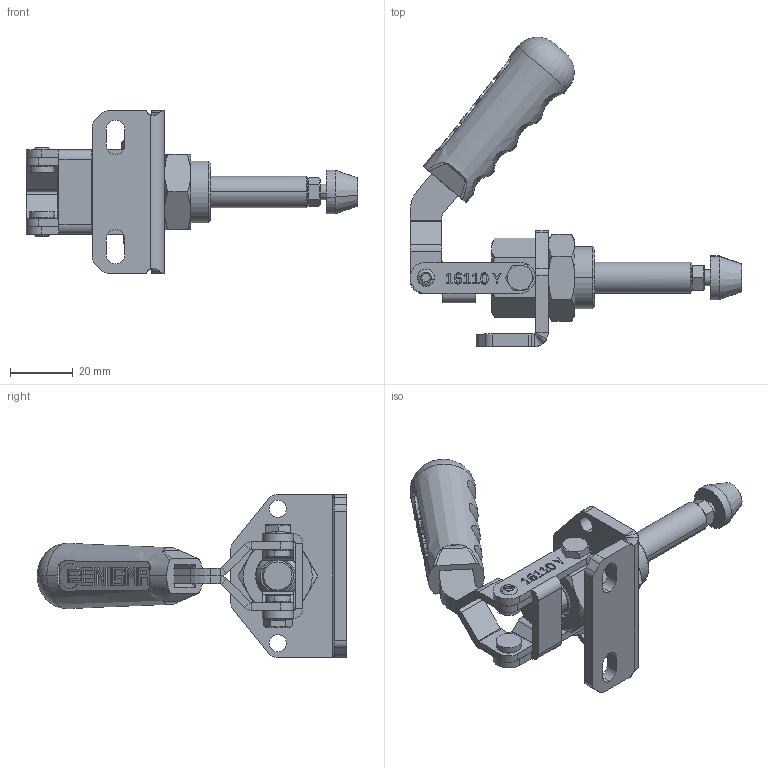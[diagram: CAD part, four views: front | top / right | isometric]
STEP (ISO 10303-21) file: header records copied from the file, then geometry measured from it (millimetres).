
FILE_DESCRIPTION (( 'STEP AP203' ), '1' );
FILE_NAME ('16110_Y.STEP', '2022-11-28T06:01:26', ( '' ), ( '' ), 'SwSTEP 2.0', 'SolidWorks 2023', '' );
FILE_SCHEMA (( 'CONFIG_CONTROL_DESIGN' ));
Length unit declared in the file: millimetre
Products named in the file (15): 1607_Mil_Varsayılan; 16110_Y; C55_T(YENİ_TUTAMAK)_Varsayılan; 1602_Mafsal_Varsayılan; M5 Somun_Varsayılan; 1602_TozKeçeliAltıgenGovde_Varsayılan; M4x5x10_Varsayılan; 1602_S4_Flans_Varsayılan; M5 Baskı_Varsayılan; Pim_5x20_Varsayılan; 1602_Hareket Kolu_Varsayılan; M20x1_5x8 Somun_Varsayılan; KASTAS-K52-10X16_2X4_5-6_Varsayılan; 1601_Pim_4x7_5_Varsayılan; Aynalama1602_Hareket Kolu_Varsayılan
Assembly tree (17 placements, depth 2):
  16110_Y
    1602_TozKeçeliAltıgenGovde_Varsayılan
    KASTAS-K52-10X16_2X4_5-6_Varsayılan  x2
    1607_Mil_Varsayılan
    1602_Hareket Kolu_Varsayılan
    1602_Mafsal_Varsayılan
    Aynalama1602_Hareket Kolu_Varsayılan
    Pim_5x20_Varsayılan
    1602_S4_Flans_Varsayılan
    M20x1_5x8 Somun_Varsayılan
    M5 Baskı_Varsayılan
    M5 Somun_Varsayılan
    M4x5x10_Varsayılan  x2
    1601_Pim_4x7_5_Varsayılan  x2
    C55_T(YENİ_TUTAMAK)_Varsayılan
Bounding box: 105.9 x 98.87 x 52 mm (x, y, z)
Volume: 48449.7 mm3; surface area: 33331.7 mm2
Topology: 17 solids, 17 shells, 928 faces, 2292 edges, 1441 vertices
Faces by surface type: plane 465, cylinder 202, bspline 129, cone 104, torus 28
Entity records: 35099 total; most frequent: CARTESIAN_POINT 14589, ORIENTED_EDGE 4076, DIRECTION 3581, EDGE_CURVE 2038, VERTEX_POINT 1288, VECTOR 1219, LINE 1219, AXIS2_PLACEMENT_3D 1181
